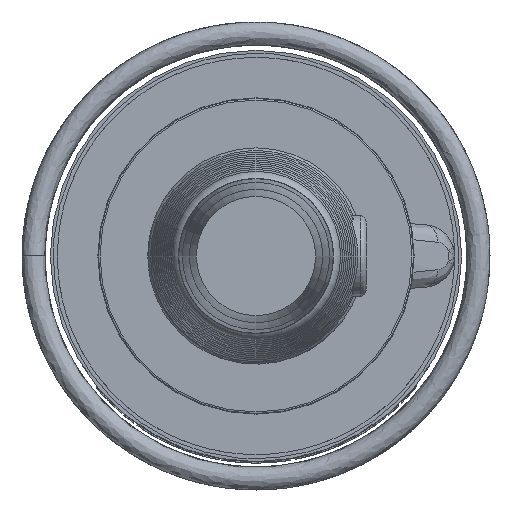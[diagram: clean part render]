
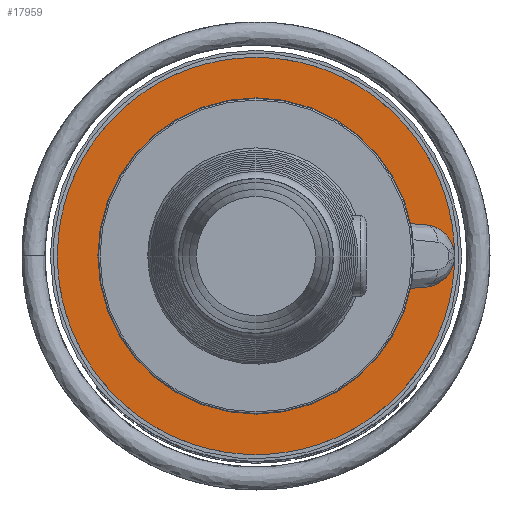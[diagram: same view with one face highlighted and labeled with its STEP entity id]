
A CAD part, left-side view. The second image highlights one B-rep face of the part: STEP entity #17959.
In plain terms, the highlighted planar face has unit normal (-1, 0, 0).
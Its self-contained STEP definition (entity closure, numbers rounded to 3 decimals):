
#1004=LINE('',#42502,#2001);
#1005=LINE('',#42510,#2002);
#2001=VECTOR('',#22140,10.);
#2002=VECTOR('',#22147,10.);
#3059=PLANE('',#19016);
#3836=FACE_OUTER_BOUND('',#4894,.T.);
#4894=EDGE_LOOP('',(#15059,#15060,#15061,#15062,#15063,#15064,#15065,#15066,
#15067));
#6250=CIRCLE('',#19017,22.);
#6251=CIRCLE('',#19018,10.);
#6252=CIRCLE('',#19019,91.5);
#6253=CIRCLE('',#19020,10.);
#6254=CIRCLE('',#19021,22.);
#6255=CIRCLE('',#19022,140.);
#6256=CIRCLE('',#19023,140.);
#8007=VERTEX_POINT('',#42498);
#8008=VERTEX_POINT('',#42499);
#8009=VERTEX_POINT('',#42501);
#8010=VERTEX_POINT('',#42503);
#8011=VERTEX_POINT('',#42505);
#8012=VERTEX_POINT('',#42507);
#8013=VERTEX_POINT('',#42509);
#8014=VERTEX_POINT('',#42512);
#10393=EDGE_CURVE('',#8007,#8008,#6250,.T.);
#10394=EDGE_CURVE('',#8008,#8009,#1004,.T.);
#10395=EDGE_CURVE('',#8009,#8010,#6251,.T.);
#10396=EDGE_CURVE('',#8010,#8011,#6252,.T.);
#10397=EDGE_CURVE('',#8011,#8012,#6253,.T.);
#10398=EDGE_CURVE('',#8012,#8013,#1005,.T.);
#10399=EDGE_CURVE('',#8013,#8007,#6254,.T.);
#10400=EDGE_CURVE('',#8014,#8007,#6255,.T.);
#10401=EDGE_CURVE('',#8007,#8014,#6256,.T.);
#15059=ORIENTED_EDGE('',*,*,#10393,.T.);
#15060=ORIENTED_EDGE('',*,*,#10394,.T.);
#15061=ORIENTED_EDGE('',*,*,#10395,.T.);
#15062=ORIENTED_EDGE('',*,*,#10396,.T.);
#15063=ORIENTED_EDGE('',*,*,#10397,.T.);
#15064=ORIENTED_EDGE('',*,*,#10398,.T.);
#15065=ORIENTED_EDGE('',*,*,#10399,.T.);
#15066=ORIENTED_EDGE('',*,*,#10400,.F.);
#15067=ORIENTED_EDGE('',*,*,#10401,.F.);
#17959=ADVANCED_FACE('',(#3836),#3059,.T.);
#19016=AXIS2_PLACEMENT_3D('',#42497,#22136,#22137);
#19017=AXIS2_PLACEMENT_3D('',#42500,#22138,#22139);
#19018=AXIS2_PLACEMENT_3D('',#42504,#22141,#22142);
#19019=AXIS2_PLACEMENT_3D('',#42506,#22143,#22144);
#19020=AXIS2_PLACEMENT_3D('',#42508,#22145,#22146);
#19021=AXIS2_PLACEMENT_3D('',#42511,#22148,#22149);
#19022=AXIS2_PLACEMENT_3D('',#42513,#22150,#22151);
#19023=AXIS2_PLACEMENT_3D('',#42514,#22152,#22153);
#22136=DIRECTION('center_axis',(-1.,0.,0.));
#22137=DIRECTION('ref_axis',(0.,1.,0.));
#22138=DIRECTION('center_axis',(1.,0.,0.));
#22139=DIRECTION('ref_axis',(0.,0.087,0.996));
#22140=DIRECTION('',(0.,0.996,-0.087));
#22141=DIRECTION('center_axis',(-1.,0.,0.));
#22142=DIRECTION('ref_axis',(0.,0.087,0.996));
#22143=DIRECTION('center_axis',(1.,0.,0.));
#22144=DIRECTION('ref_axis',(0.,0.,
1.));
#22145=DIRECTION('center_axis',(-1.,0.,0.));
#22146=DIRECTION('ref_axis',(0.,0.934,-0.358));
#22147=DIRECTION('',(0.,-0.996,-0.087));
#22148=DIRECTION('center_axis',(1.,0.,0.));
#22149=DIRECTION('ref_axis',(0.,0.087,0.996));
#22150=DIRECTION('center_axis',(1.,0.,0.));
#22151=DIRECTION('ref_axis',(0.,0.,
1.));
#22152=DIRECTION('center_axis',(1.,0.,0.));
#22153=DIRECTION('ref_axis',(0.,0.,
1.));
#42497=CARTESIAN_POINT('Origin',(-17.009,-0.004,
114.75));
#42498=CARTESIAN_POINT('',(-17.009,-140.004,0.));
#42499=CARTESIAN_POINT('',(-17.009,-119.922,-21.916));
#42500=CARTESIAN_POINT('Origin',(-17.009,-118.004,0.));
#42501=CARTESIAN_POINT('',(-17.009,-89.231,-24.601));
#42502=CARTESIAN_POINT('',(-17.009,-66.352,-26.603));
#42503=CARTESIAN_POINT('',(-17.009,-88.088,-24.768));
#42504=CARTESIAN_POINT('Origin',(-17.009,-90.102,-34.563));
#42505=CARTESIAN_POINT('',(-17.009,-88.088,24.768));
#42506=CARTESIAN_POINT('Origin',(-17.009,-0.004,
0.));
#42507=CARTESIAN_POINT('',(-17.009,-89.231,24.601));
#42508=CARTESIAN_POINT('Origin',(-17.009,-90.102,34.563));
#42509=CARTESIAN_POINT('',(-17.009,-119.922,21.916));
#42510=CARTESIAN_POINT('',(-17.009,-41.043,28.817));
#42511=CARTESIAN_POINT('Origin',(-17.009,-118.004,0.));
#42512=CARTESIAN_POINT('',(-17.009,-0.004,-140.));
#42513=CARTESIAN_POINT('Origin',(-17.009,-0.004,
0.));
#42514=CARTESIAN_POINT('Origin',(-17.009,-0.004,
0.));
